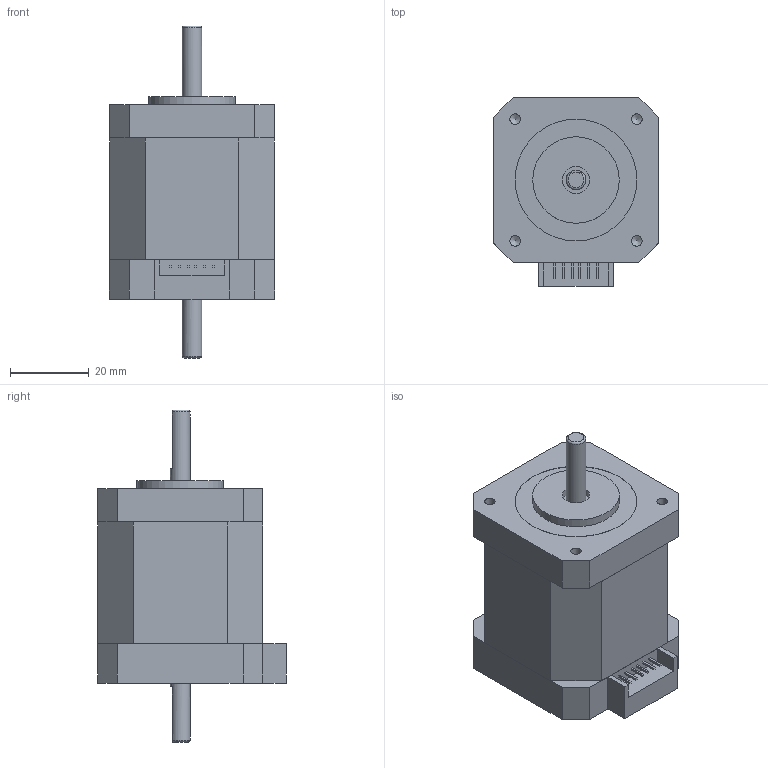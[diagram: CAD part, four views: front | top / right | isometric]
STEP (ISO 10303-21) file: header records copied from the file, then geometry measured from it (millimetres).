
FILE_DESCRIPTION(/* description */ (''),/* implementation_level */ '2;1');
FILE_NAME(/* name */ 'STP-42d4042-02 shuangzhou.stp',/* time_stamp */ '2018-08-13T15:07:17+08:00',/* author */ (''),/* organization */ (''),/* preprocessor_version */ 'ST-DEVELOPER v11',/* originating_system */ 'SIEMENS UGS NX 6.0',/* authorisation */ '');
FILE_SCHEMA (('CONFIG_CONTROL_DESIGN'));
Length unit declared in the file: millimetre
Products named in the file (1): STP-42d4042-02 shuangzhou
Bounding box: 42 x 48 x 84.5 mm (x, y, z)
Volume: 82988.5 mm3; surface area: 12594.7 mm2
Topology: 1 solids, 1 shells, 158 faces, 401 edges, 268 vertices
Faces by surface type: plane 133, cylinder 15, cone 8, torus 2
Full cylindrical faces by diameter (mm): 2.7 x4, 4.414 x4, 5 x2, 7 x2, 8.5 x1, 22 x1, 31 x1
Entity records: 4536 total; most frequent: CARTESIAN_POINT 793, ORIENTED_EDGE 720, DIRECTION 712, EDGE_CURVE 360, LINE 318, VECTOR 318, VERTEX_POINT 254, EDGE_LOOP 204
